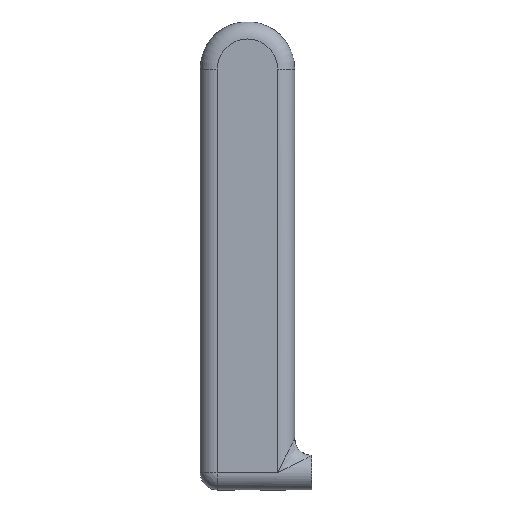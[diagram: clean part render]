
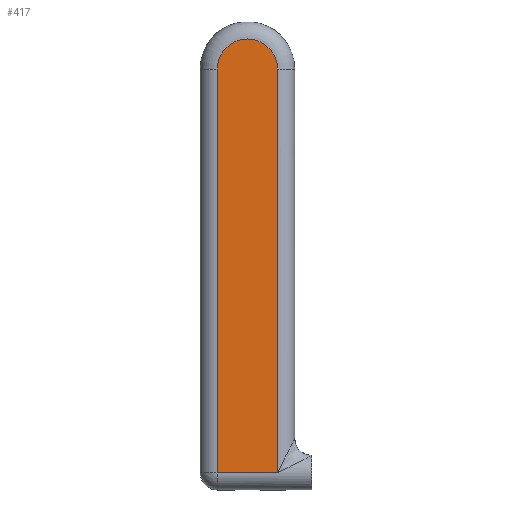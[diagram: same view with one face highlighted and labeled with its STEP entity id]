
A CAD part, front view. The second image highlights one B-rep face of the part: STEP entity #417.
In plain terms, the highlighted planar face has unit normal (0, -1, 0).
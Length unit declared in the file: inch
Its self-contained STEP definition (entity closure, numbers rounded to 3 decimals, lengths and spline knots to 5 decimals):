
#30=PLANE('',#484);
#57=FACE_OUTER_BOUND('',#82,.T.);
#82=EDGE_LOOP('',(#378,#379,#380,#381));
#97=LINE('',#860,#120);
#104=LINE('',#888,#127);
#105=LINE('',#891,#128);
#120=VECTOR('',#561,3.70079);
#127=VECTOR('',#600,3.70079);
#128=VECTOR('',#605,0.55118);
#154=CIRCLE('',#481,0.27559);
#192=VERTEX_POINT('',#853);
#193=VERTEX_POINT('',#858);
#197=VERTEX_POINT('',#877);
#198=VERTEX_POINT('',#887);
#241=EDGE_CURVE('',#193,#192,#97,.T.);
#256=EDGE_CURVE('',#197,#198,#104,.T.);
#258=EDGE_CURVE('',#192,#197,#105,.T.);
#259=EDGE_CURVE('',#198,#193,#154,.T.);
#378=ORIENTED_EDGE('',*,*,#241,.F.);
#379=ORIENTED_EDGE('',*,*,#259,.F.);
#380=ORIENTED_EDGE('',*,*,#256,.F.);
#381=ORIENTED_EDGE('',*,*,#258,.F.);
#417=ADVANCED_FACE('',(#57),#30,.F.);
#481=AXIS2_PLACEMENT_3D('',#893,#608,#609);
#484=AXIS2_PLACEMENT_3D('',#896,#614,#615);
#561=DIRECTION('',(0.,0.,-1.));
#600=DIRECTION('',(0.,0.,1.));
#605=DIRECTION('',(-1.,0.,0.));
#608=DIRECTION('center_axis',(0.,1.,0.));
#609=DIRECTION('ref_axis',(0.,0.,1.));
#614=DIRECTION('center_axis',(0.,1.,0.));
#615=DIRECTION('ref_axis',(0.,0.,1.));
#853=CARTESIAN_POINT('',(0.27559,-0.43307,0.19685));
#858=CARTESIAN_POINT('',(0.27559,-0.43307,3.89764));
#860=CARTESIAN_POINT('',(0.27559,-0.43307,3.89764));
#877=CARTESIAN_POINT('',(-0.27559,-0.43307,0.19685));
#887=CARTESIAN_POINT('',(-0.27559,-0.43307,3.89764));
#888=CARTESIAN_POINT('',(-0.27559,-0.43307,0.19685));
#891=CARTESIAN_POINT('',(0.27559,-0.43307,0.19685));
#893=CARTESIAN_POINT('Origin',(0.,-0.43307,
3.89764));
#896=CARTESIAN_POINT('Origin',(0.,-0.43307,
3.89764));
